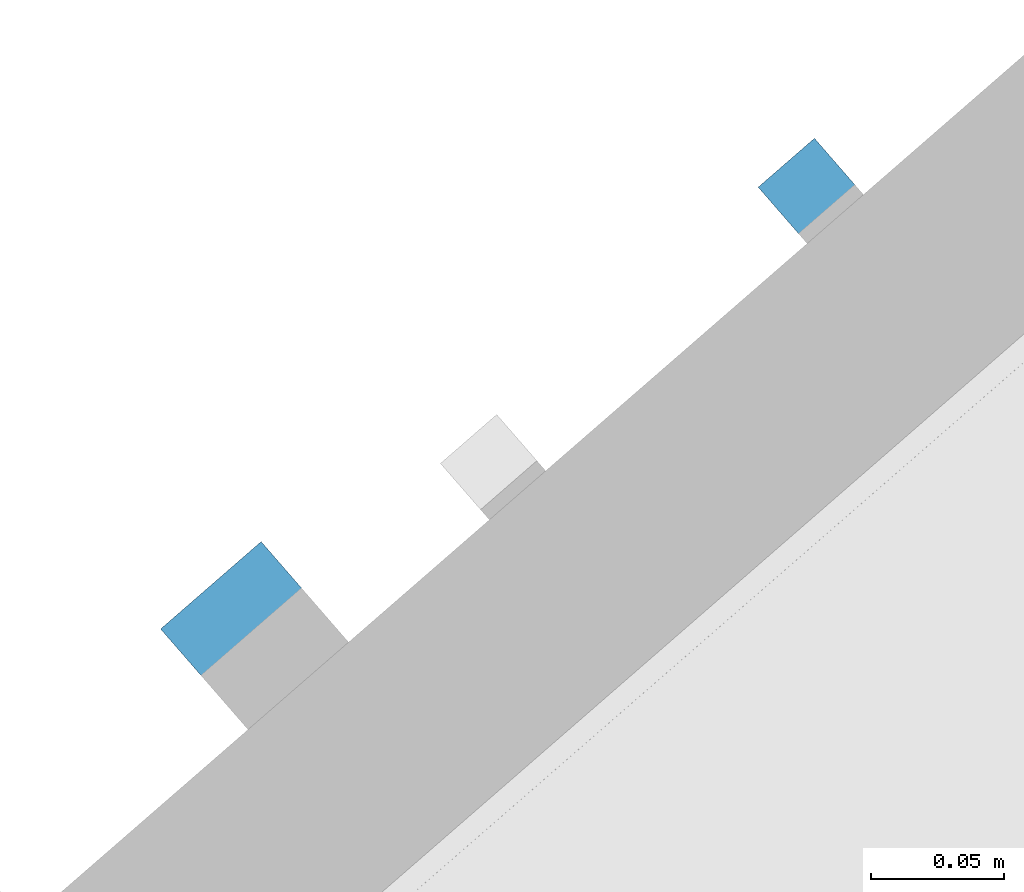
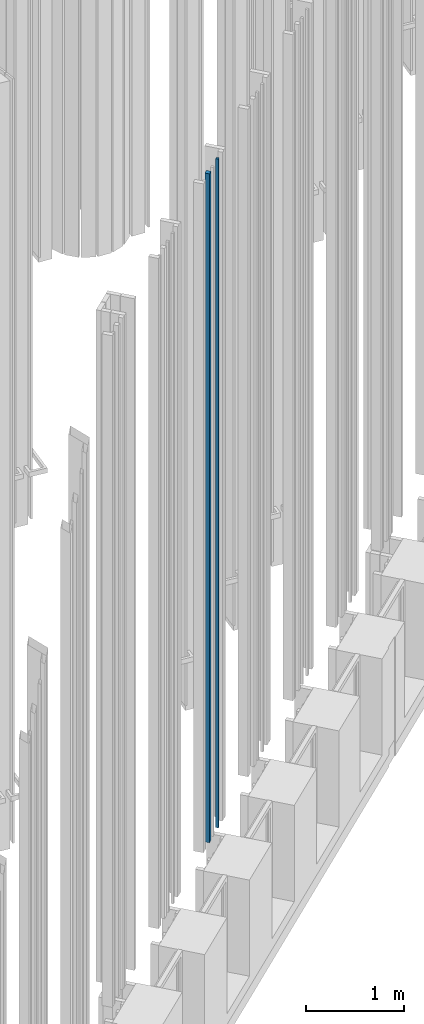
# One storey, part 248 of 390: 2 walls.
"""IFC2X3 building model written with IfcOpenShell, lengths in millimetres."""

from ifc_helpers import new_model, entity, si_unit, converted_unit, derived_unit, money_unit, direction, frame, origin_with_axes, place, context, subcontext, project, spatial, faceted_brep, material, type_object, element, save


model = new_model("IFC2X3")

# Units and contexts
model_context = context("Model", 3, precision=1e-05, world=origin_with_axes(), true_north=direction((0.0, 1.0)))
body_context = subcontext(model_context, "Body", "Model", "MODEL_VIEW")
ifc_project = project(units=[si_unit("LENGTHUNIT", "METRE", prefix="MILLI"), si_unit("AREAUNIT", "SQUARE_METRE"), si_unit("VOLUMEUNIT", "CUBIC_METRE"), converted_unit("PLANEANGLEUNIT", "DEGREE", entity("IfcPlaneAngleMeasure", 0.0174532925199), si_unit("PLANEANGLEUNIT", "RADIAN"), dimensions=[0, 0, 0, 0, 0, 0, 0]), si_unit("SOLIDANGLEUNIT", "STERADIAN"), money_unit("EUR"), converted_unit("TIMEUNIT", "Year", entity("IfcTimeMeasure", 31556926.0), si_unit("TIMEUNIT", "SECOND"), dimensions=[0, 0, 1, 0, 0, 0, 0]), si_unit("MASSUNIT", "GRAM", prefix="KILO"), si_unit("THERMODYNAMICTEMPERATUREUNIT", "DEGREE_CELSIUS"), si_unit("LUMINOUSINTENSITYUNIT", "LUMEN"), si_unit("ENERGYUNIT", "JOULE", prefix="MEGA"), derived_unit("THERMALCONDUCTANCEUNIT", [(si_unit("POWERUNIT", "WATT"), 1), (si_unit("LENGTHUNIT", "METRE"), -1), (si_unit("THERMODYNAMICTEMPERATUREUNIT", "KELVIN"), -1)]), derived_unit("SPECIFICHEATCAPACITYUNIT", [(si_unit("ENERGYUNIT", "JOULE"), 1), (si_unit("MASSUNIT", "GRAM", prefix="KILO"), -1), (si_unit("THERMODYNAMICTEMPERATUREUNIT", "KELVIN"), -1)]), derived_unit("MASSDENSITYUNIT", [(si_unit("MASSUNIT", "GRAM", prefix="KILO"), 1), (si_unit("VOLUMEUNIT", "CUBIC_METRE"), -1)])], contexts=[model_context])

# Site, building, storey
site_placement = place(None, origin_with_axes())
site = spatial("IfcSite", under=ifc_project, at=site_placement, Name="Site", CompositionType="ELEMENT")
building_placement = place(site_placement, origin_with_axes())
building = spatial("IfcBuilding", under=site, at=building_placement, Name="Building", CompositionType="ELEMENT")
storey_placement = place(building_placement, origin_with_axes())
storey = spatial("IfcBuildingStorey", under=building, at=storey_placement, Name="1 korrus", CompositionType="ELEMENT", Elevation=0.0)

# Walls
ifc_material = material(Name="Site specified")
wall_type = type_object("IfcWallType", Name="Puitfassaadi ribistik", PredefinedType="NOTDEFINED")
wall_1_placement = place(storey_placement, frame((144482.870228, 95618.8835768, 1553.00147262), z_axis=(0.0, 0.0, 1.0), x_axis=(0.754709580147, 0.656059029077, 0.0)))
element("IfcWall", 1, at=wall_1_placement, inside=storey, type_object=wall_type, material=ifc_material, Name="Site specified", context=body_context, shape_type="Brep", body=[
    faceted_brep([(14.0, 14.0, 8311.99852738), (14.0, 14.0, 0.0), (-14.0, 14.0, 0.0), (-14.0, 14.0, 8311.99852738), (14.0, -14.0, 8311.99852738), (14.0, -14.0, 0.0), (-14.0, -14.0, 0.0), (-14.0, -14.0, 8311.99852738)], [[[0, 1, 2, 3]], [[4, 5, 1, 0]], [[2, 1, 5, 6]], [[3, 2, 6, 7]], [[4, 0, 3, 7]], [[7, 6, 5, 4]]]),
])
wall_2_placement = place(storey_placement, frame((144274.146121, 95452.0176214, 1553.00147262), z_axis=(0.0, 0.0, 1.0), x_axis=(0.754709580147, 0.656059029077, 0.0)))
element("IfcWall", 2, at=wall_2_placement, inside=storey, type_object=wall_type, material=ifc_material, Name="Site specified", context=body_context, shape_type="Brep", body=[
    faceted_brep([(25.0, 25.0, 8311.99852738), (25.0, 25.0, 0.0), (-25.0, 25.0, 0.0), (-25.0, 25.0, 8311.99852738), (25.0, -25.0, 8311.99852738), (25.0, -25.0, 0.0), (-25.0, -25.0, 0.0), (-25.0, -25.0, 8311.99852738)], [[[0, 1, 2, 3]], [[4, 5, 1, 0]], [[2, 1, 5, 6]], [[3, 2, 6, 7]], [[4, 0, 3, 7]], [[7, 6, 5, 4]]]),
])

save(model, "model.ifc")
